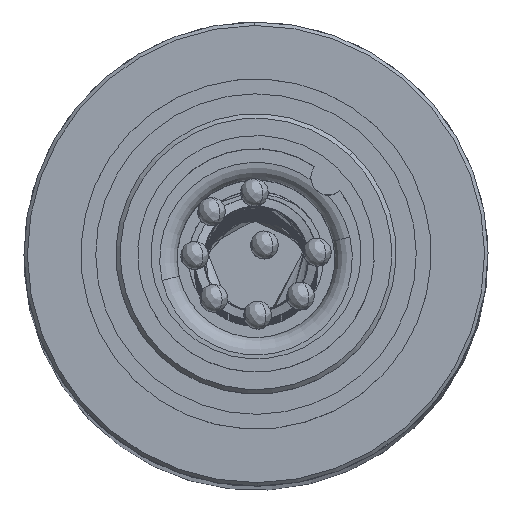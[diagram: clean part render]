
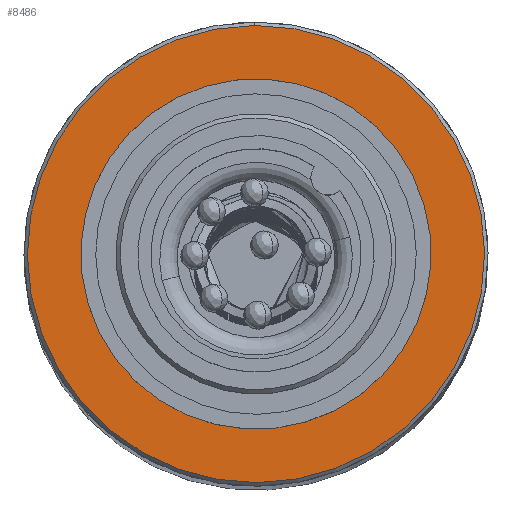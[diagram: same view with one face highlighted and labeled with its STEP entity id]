
A CAD part, top view. The second image highlights one B-rep face of the part: STEP entity #8486.
In plain terms, the highlighted planar face has unit normal (0, 0, 1).
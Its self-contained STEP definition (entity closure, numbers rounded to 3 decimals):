
#429 = DIRECTION ( 'NONE',  ( -0.008, 1., 0. ) ) ;
#569 = PLANE ( 'NONE',  #21224 ) ;
#1008 = EDGE_CURVE ( 'NONE', #8092, #18711, #13955, .T. ) ;
#2369 = VERTEX_POINT ( 'NONE', #18510 ) ;
#2460 = FACE_OUTER_BOUND ( 'NONE', #6770, .T. ) ;
#3719 = AXIS2_PLACEMENT_3D ( 'NONE', #15474, #7016, #429 ) ;
#4319 = ORIENTED_EDGE ( 'NONE', *, *, #1008, .T. ) ;
#4367 = CARTESIAN_POINT ( 'NONE',  ( 0.099, -13.05, 794.919 ) ) ;
#4610 = CARTESIAN_POINT ( 'NONE',  ( 0., 0., 794.919 ) ) ;
#4980 = ORIENTED_EDGE ( 'NONE', *, *, #14633, .T. ) ;
#5218 = AXIS2_PLACEMENT_3D ( 'NONE', #4610, #11399, #16522 ) ;
#5801 = DIRECTION ( 'NONE',  ( 0., 0., 1. ) ) ;
#5932 = CIRCLE ( 'NONE', #5218, 9.15 ) ;
#6051 = CIRCLE ( 'NONE', #10674, 13.05 ) ;
#6398 = DIRECTION ( 'NONE',  ( -0.008, 1., 0. ) ) ;
#6759 = EDGE_CURVE ( 'NONE', #2369, #18278, #10484, .T. ) ;
#6770 = EDGE_LOOP ( 'NONE', ( #11521, #12185 ) ) ;
#6837 = DIRECTION ( 'NONE',  ( 0., 0., -1. ) ) ;
#7016 = DIRECTION ( 'NONE',  ( 0., 0., 1. ) ) ;
#8092 = VERTEX_POINT ( 'NONE', #10487 ) ;
#8486 = ADVANCED_FACE ( 'NONE', ( #19642, #2460 ), #569, .T. ) ;
#9448 = CARTESIAN_POINT ( 'NONE',  ( 0., 0., 794.919 ) ) ;
#10179 = CARTESIAN_POINT ( 'NONE',  ( 0., 0., 794.919 ) ) ;
#10484 = CIRCLE ( 'NONE', #3719, 13.05 ) ;
#10487 = CARTESIAN_POINT ( 'NONE',  ( 0.069, -9.15, 794.919 ) ) ;
#10674 = AXIS2_PLACEMENT_3D ( 'NONE', #9448, #16460, #12564 ) ;
#10893 = CARTESIAN_POINT ( 'NONE',  ( -0.069, 9.15, 794.919 ) ) ;
#11399 = DIRECTION ( 'NONE',  ( 0., 0., -1. ) ) ;
#11521 = ORIENTED_EDGE ( 'NONE', *, *, #20703, .T. ) ;
#12170 = AXIS2_PLACEMENT_3D ( 'NONE', #10179, #6837, #6398 ) ;
#12185 = ORIENTED_EDGE ( 'NONE', *, *, #6759, .T. ) ;
#12564 = DIRECTION ( 'NONE',  ( -0.008, 1., 0. ) ) ;
#13955 = CIRCLE ( 'NONE', #12170, 9.15 ) ;
#14038 = CARTESIAN_POINT ( 'NONE',  ( 0., 0., 794.919 ) ) ;
#14633 = EDGE_CURVE ( 'NONE', #18711, #8092, #5932, .T. ) ;
#15474 = CARTESIAN_POINT ( 'NONE',  ( 0., 0., 794.919 ) ) ;
#16460 = DIRECTION ( 'NONE',  ( 0., 0., 1. ) ) ;
#16522 = DIRECTION ( 'NONE',  ( -0.008, 1., 0. ) ) ;
#18066 = EDGE_LOOP ( 'NONE', ( #4980, #4319 ) ) ;
#18278 = VERTEX_POINT ( 'NONE', #4367 ) ;
#18510 = CARTESIAN_POINT ( 'NONE',  ( -0.099, 13.05, 794.919 ) ) ;
#18711 = VERTEX_POINT ( 'NONE', #10893 ) ;
#19204 = DIRECTION ( 'NONE',  ( -0.008, 1., 0. ) ) ;
#19642 = FACE_BOUND ( 'NONE', #18066, .T. ) ;
#20703 = EDGE_CURVE ( 'NONE', #18278, #2369, #6051, .T. ) ;
#21224 = AXIS2_PLACEMENT_3D ( 'NONE', #14038, #5801, #19204 ) ;
